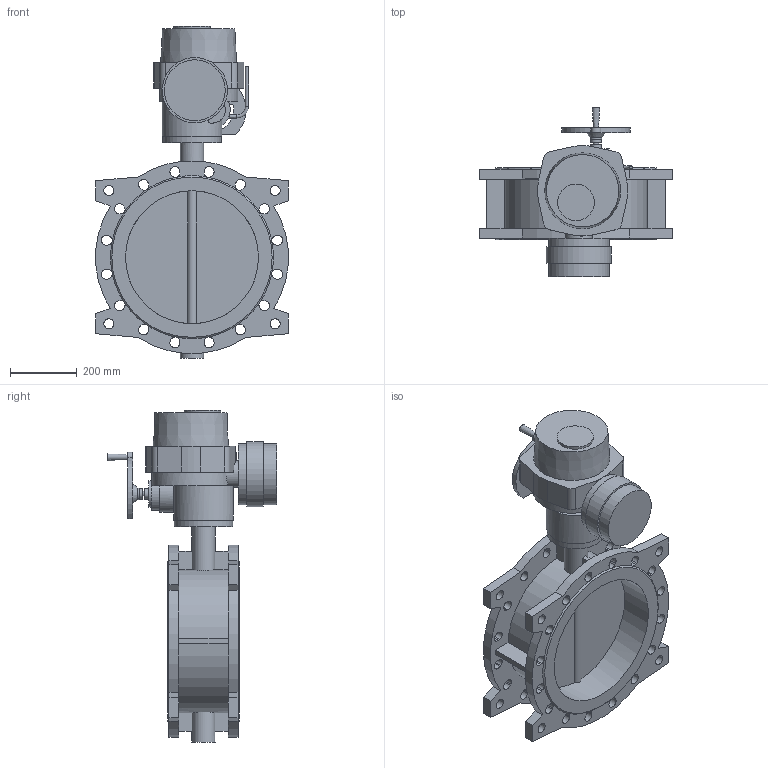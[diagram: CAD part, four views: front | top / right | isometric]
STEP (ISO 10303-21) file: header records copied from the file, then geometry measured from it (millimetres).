
FILE_DESCRIPTION(('STEP AP203'), '1');
FILE_NAME('青蜮铕 021F.Y DN400+菹 QT.A120', '', ('UNSPECIFIED'), ('UNSPECIFIED'), 'ASCON STEP Converter 1.6', 'ASCON Math Kernel', '');
FILE_SCHEMA(('CONFIG_CONTROL_DESIGN'));
Length unit declared in the file: millimetre
Bounding box: 580 x 509 x 998 mm (x, y, z)
Volume: 33802085.9 mm3; surface area: 2200285.5 mm2
Topology: 1 solids, 1 shells, 312 faces, 938 edges, 621 vertices
Faces by surface type: plane 173, cylinder 133, cone 5, torus 1
Full cylindrical faces by diameter (mm): 10 x6, 16 x1, 18 x4, 30 x8, 32 x2, 35 x1, 70 x2, 80 x2, 100 x1, 110 x1, 175 x1, 180 x1, 183 x2, 196 x1, 400 x2
Entity records: 15979 total; most frequent: CARTESIAN_POINT 4759, DIRECTION 1833, ORIENTED_EDGE 1794, EDGE_CURVE 897, AXIS2_PLACEMENT_3D 677, VERTEX_POINT 621, LINE 479, VECTOR 479
